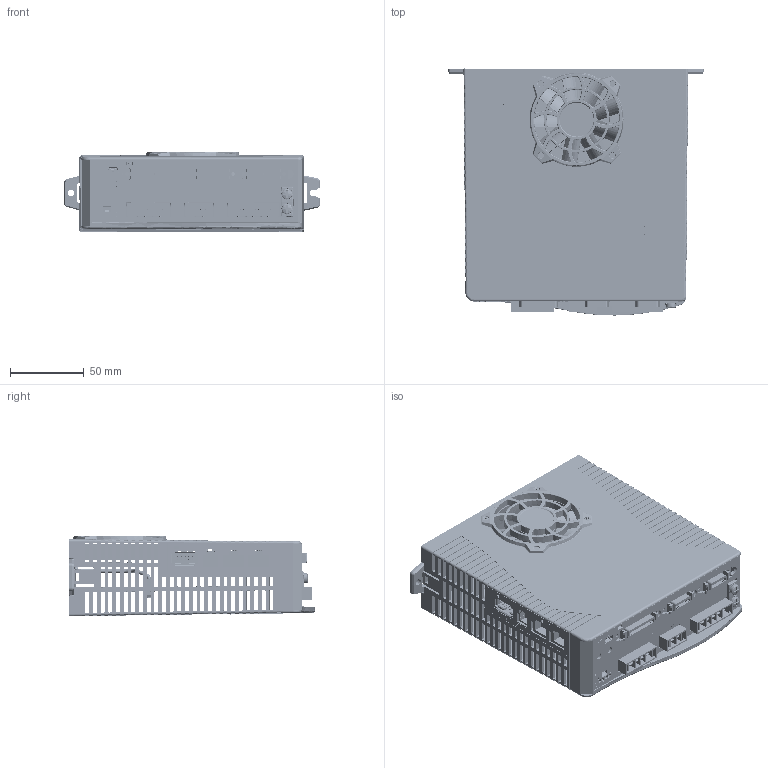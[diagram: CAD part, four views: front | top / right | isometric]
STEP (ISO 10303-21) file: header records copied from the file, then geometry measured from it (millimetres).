
FILE_DESCRIPTION (( 'STEP AP214' ), '1' );
FILE_NAME ('120 240 VAC CDHD-4D5 CDHD-006.STEP', '2023-09-06T02:22:20', ( '' ), ( '' ), 'SwSTEP 2.0', 'SolidWorks 2016', '' );
FILE_SCHEMA (( 'AUTOMOTIVE_DESIGN' ));
Length unit declared in the file: millimetre
Products named in the file (1): 120 240 VAC CDHD-4D5 CDHD-006
Bounding box: 173.34 x 167.45 x 54.72 mm (x, y, z)
Volume: 205698.4 mm3; surface area: 212328.8 mm2
Topology: 145 solids, 146 shells, 8916 faces, 24604 edges, 16091 vertices
Faces by surface type: plane 5423, cylinder 1808, bspline 1489, cone 192, sphere 4
Entity records: 423172 total; most frequent: CARTESIAN_POINT 165811, ORIENTED_EDGE 49156, DIRECTION 30424, EDGE_CURVE 24578, VERTEX_POINT 16087, LINE 12704, VECTOR 12704, B_SPLINE_CURVE_WITH_KNOTS 10271
